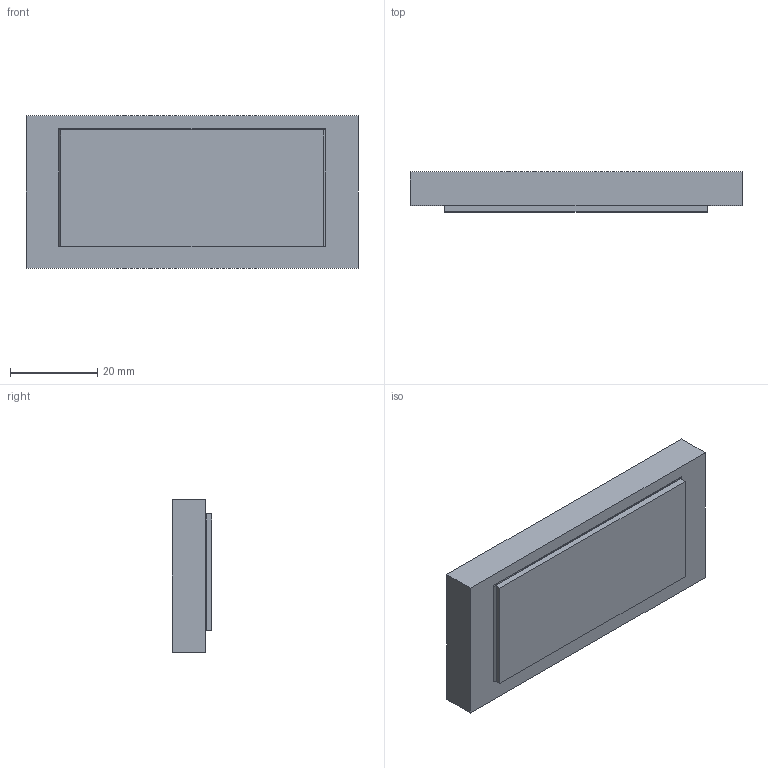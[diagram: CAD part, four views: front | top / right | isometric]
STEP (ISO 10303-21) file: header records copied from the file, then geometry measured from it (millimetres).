
FILE_DESCRIPTION(('Open CASCADE Model'),'2;1');
FILE_NAME('Open CASCADE Shape Model','2026-11-02T05:02:36',('Author'),( 'Open CASCADE'),'Open CASCADE STEP processor 7.8','Open CASCADE 7.8' ,'Unknown');
FILE_SCHEMA(('AUTOMOTIVE_DESIGN { 1 0 10303 214 1 1 1 1 }'));
Length unit declared in the file: millimetre
Products named in the file (3): V3_FLEX_IN_CAPTURED_PAD_CAD_PREVIEW; Rigid_closed_track_with_fixed_sloped_top_stop; Shorter_TPU_pad_with_matching_top_bevel
Assembly tree (2 placements, depth 2):
  V3_FLEX_IN_CAPTURED_PAD_CAD_PREVIEW
    Rigid_closed_track_with_fixed_sloped_top_stop
    Shorter_TPU_pad_with_matching_top_bevel
Bounding box: 76 x 9.15 x 35 mm (x, y, z)
Volume: 21513.6 mm3; surface area: 11946.7 mm2
Topology: 2 solids, 2 shells, 52 faces, 123 edges, 82 vertices
Faces by surface type: plane 50, cylinder 2
Entity records: 3120 total; most frequent: CARTESIAN_POINT 560, DIRECTION 451, LINE 331, VECTOR 331, ORIENTED_EDGE 246, PCURVE 246, DEFINITIONAL_REPRESENTATION 246, EDGE_CURVE 123
